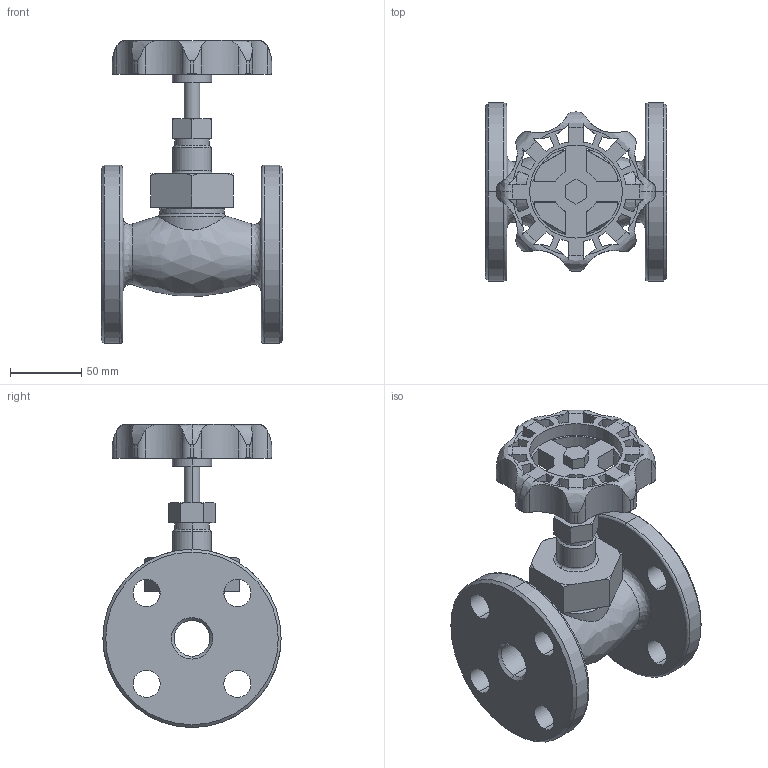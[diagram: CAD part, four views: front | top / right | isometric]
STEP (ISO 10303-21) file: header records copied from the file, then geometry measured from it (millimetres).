
FILE_DESCRIPTION( (''), '2;1');
FILE_NAME ('PC1027.9568.GLV-10F 25A_16606.stp','2025-07-28T11:36:12',(''),(''),'spGate 19.8.4 (****-****-****-****)','','');
FILE_SCHEMA (('AUTOMOTIVE_DESIGN'));
Length unit declared in the file: millimetre
Bounding box: 127 x 125 x 212.5 mm (x, y, z)
Volume: 697466.4 mm3; surface area: 136899.1 mm2
Topology: 1 solids, 1 shells, 229 faces, 666 edges, 434 vertices
Faces by surface type: cylinder 107, plane 72, bspline 50
Entity records: 14110 total; most frequent: CARTESIAN_POINT 3224, ORIENTED_EDGE 1332, DIRECTION 1114, COLOUR_RGB 896, PRESENTATION_STYLE_ASSIGNMENT 896, STYLED_ITEM 896, EDGE_CURVE 666, DRAUGHTING_PRE_DEFINED_CURVE_FONT 666
